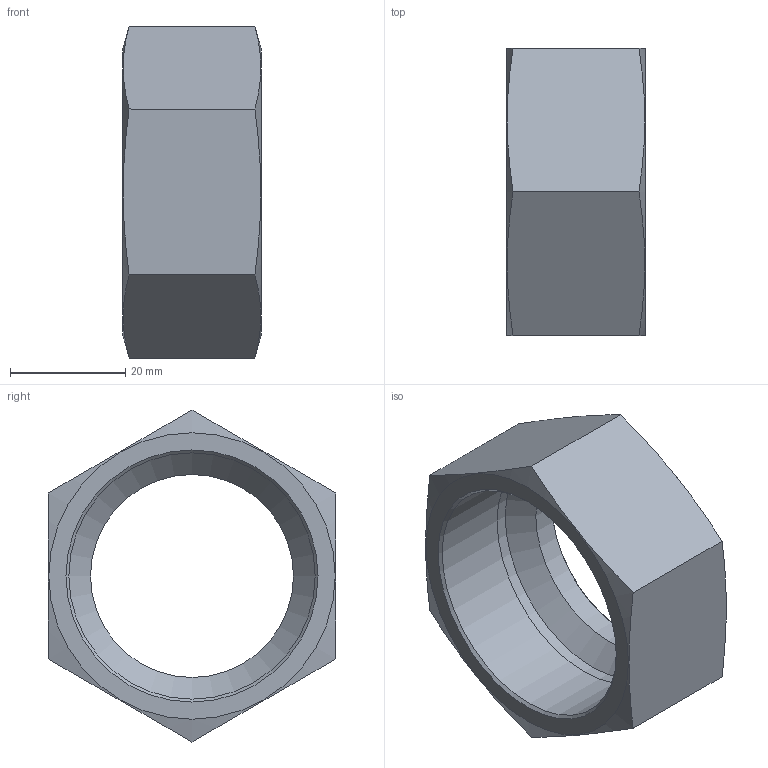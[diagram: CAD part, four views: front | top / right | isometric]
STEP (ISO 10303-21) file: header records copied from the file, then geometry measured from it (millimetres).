
FILE_DESCRIPTION( ( 'Unknown' ), '1' );
FILE_NAME( 'C:/Users/p.nanko/Desktop/3D SR/M35L.stp', 'Unknown', ( 'Peter Nanko' ), ( 'Armaturen Arndt' ), 'PSStep 14.0', 'Solid Edge ST4', ' ' );
FILE_SCHEMA( ( 'AUTOMOTIVE_DESIGN { 1 0 10303 214 1 1 1 1 }' ) );
Length unit declared in the file: millimetre
Products named in the file (1): 1
Bounding box: 24 x 50 x 57.73 mm (x, y, z)
Volume: 20075.3 mm3; surface area: 9174.6 mm2
Topology: 1 solids, 1 shells, 16 faces, 36 edges, 22 vertices
Faces by surface type: plane 8, cone 5, cylinder 3
Full cylindrical faces by diameter (mm): 35.3 x1, 42.835 x2
Entity records: 616 total; most frequent: CARTESIAN_POINT 165, DIRECTION 58, ORIENTED_EDGE 54, EDGE_CURVE 27, AXIS2_PLACEMENT_3D 26, EDGE_LOOP 26, VERTEX_POINT 21, FACE_OUTER_BOUND 19
